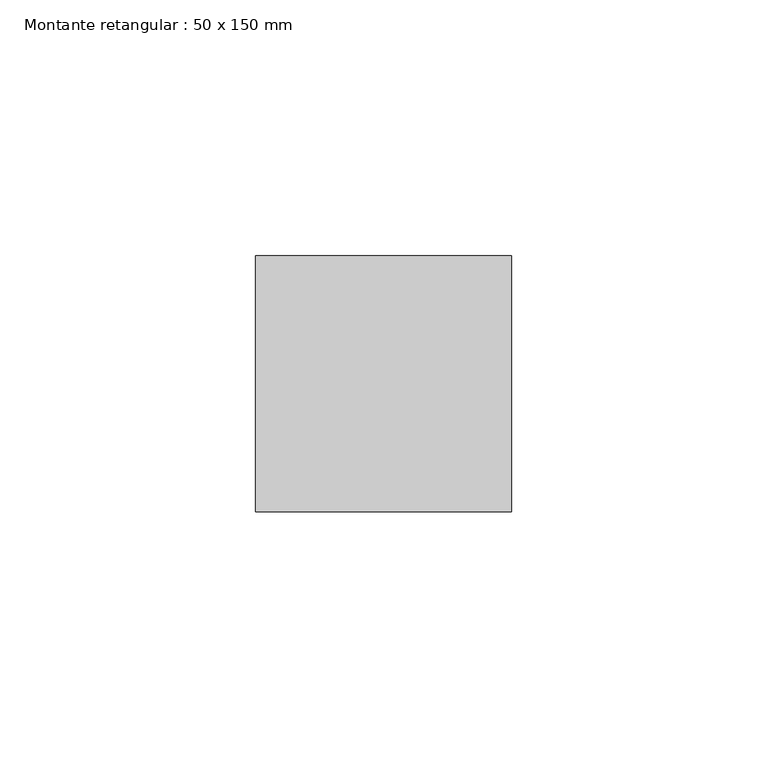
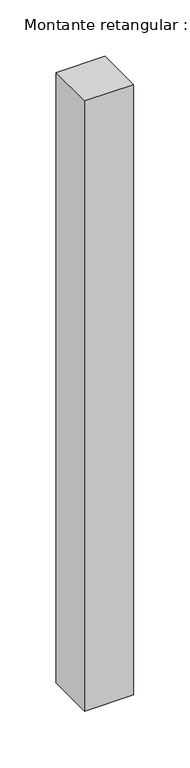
"""IFC4 building model written with IfcOpenShell, lengths in millimetres: member geometry, Montante retangular : 50 x 150 mm."""

from ifc_helpers import new_model, si_unit, frame, origin, place, context, project, spatial, polyline, outline, extrude, source, transform, mapped, element, save


def montante_retangular_50_x_150_mm_d73d6b17(model_context):
    return source(origin(), model_context, "Body", "SweptSolid", [
        extrude(outline(polyline([(0.0, 25.0), (0.0, -25.0), (-50.0, -25.0), (-50.0, 25.0), (0.0, 25.0)])), frame((0.0, 0.0, -660.05), z_axis=(0.0, 0.0, 1.0), x_axis=(1.0, 0.0, 0.0)), (0.0, 0.0, 1.0), 660.05),
    ])


if __name__ == "__main__":
    model = new_model("IFC4")
    model_context = context("Model", 3, world=origin())
    ifc_project = project(units=[si_unit("LENGTHUNIT", "METRE", prefix="MILLI")], contexts=[model_context])
    site = spatial("IfcSite", under=ifc_project)
    building = spatial("IfcBuilding", under=site)
    placement = place(None, origin())
    montante_retangular_50_x_150_mm_shape = montante_retangular_50_x_150_mm_d73d6b17(model_context)
    element("IfcMember", 1, ObjectType="Montante retangular : 50 x 150 mm", at=placement, inside=building, context=model_context, shape_type="MappedRepresentation", body=[
        mapped(montante_retangular_50_x_150_mm_shape, transform((0.0, 0.0, 0.0), x_axis=(1.0, 0.0, 0.0), y_axis=(0.0, 1.0, 0.0), z_axis=(0.0, 0.0, 1.0))),
    ])
    save(model, "model.ifc")
